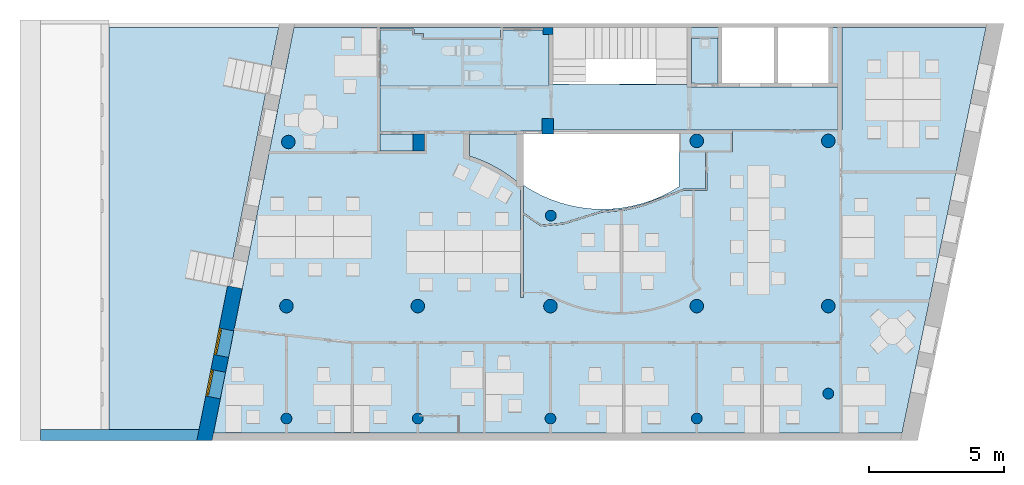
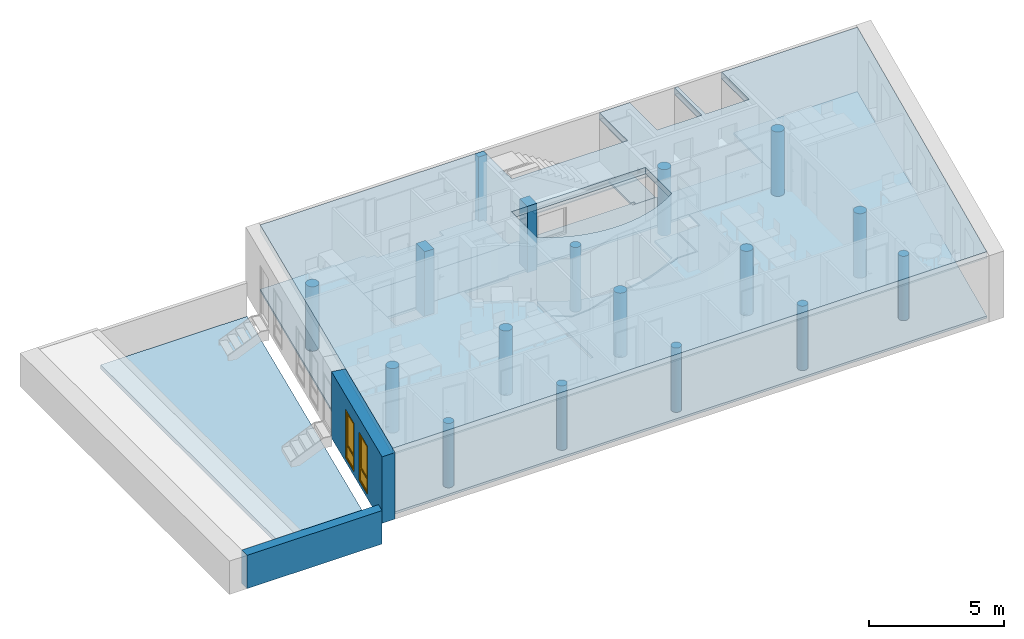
"""IFC4 building model written with IfcOpenShell, lengths in metres."""

from ifc_helpers import new_model, entity, si_unit, converted_unit, derived_unit, frame, frame_2d, origin, origin_with_axes, place, context, subcontext, project, spatial, polyline, rectangle, circle, outline, extrude, closed_shell, open_shell, surface_model, source, transform, mapped, material, layer, layer_set, layer_usage, type_object, element, fill, save


model = new_model("IFC4")

# Units and contexts
model_context = context("Model", 3, precision=1e-05, world=origin())
body_context = subcontext(model_context, "Body", "Model", "MODEL_VIEW")
ifc_project = project(units=[si_unit("LENGTHUNIT", "METRE"), si_unit("AREAUNIT", "SQUARE_METRE"), si_unit("VOLUMEUNIT", "CUBIC_METRE"), si_unit("MASSUNIT", "GRAM", prefix="KILO"), converted_unit("PLANEANGLEUNIT", "DEGREE", entity("IfcPlaneAngleMeasure", 0.0174532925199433), si_unit("PLANEANGLEUNIT", "RADIAN"), dimensions=[0, 0, 0, 0, 0, 0, 0]), derived_unit("THERMALTRANSMITTANCEUNIT", [(si_unit("POWERUNIT", "WATT"), 1), (si_unit("THERMODYNAMICTEMPERATUREUNIT", "KELVIN"), -1), (si_unit("LENGTHUNIT", "METRE"), -2)]), derived_unit("VOLUMETRICFLOWRATEUNIT", [(si_unit("LENGTHUNIT", "METRE"), 3), (converted_unit("TIMEUNIT", "hour", entity("IfcTimeMeasure", 3600.0), si_unit("TIMEUNIT", "SECOND"), dimensions=[0, 0, 1, 0, 0, 0, 0]), -1), (si_unit("LENGTHUNIT", "METRE"), -1)])], contexts=[model_context])

# Building, storeys
building_placement = place(None, origin())
building = spatial("IfcBuilding", under=ifc_project, at=building_placement, Name="HABITATGE PLURIFAMILIAR", CompositionType="ELEMENT")
storey_1_placement = place(building_placement, frame((0.0, 0.0, 6.25)))
storey_1 = spatial("IfcBuildingStorey", under=building, at=storey_1_placement, Name="PLANTA PRIMERA", CompositionType="ELEMENT", Elevation=6.25)
storey_2_placement = place(storey_1_placement, frame((0.0, 0.0, 3.35)))
storey_2 = spatial("IfcBuildingStorey", under=storey_1, at=storey_2_placement, Name="NOU", CompositionType="PARTIAL")

# Columns
for number, where, name in (
    (1, (420.741984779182, 23.649459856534, -3.45), "Pilar P1"),
    (2, (420.741984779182, 17.549459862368, -3.45), "Pilar P1"),
    (3, (415.886984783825, 17.549459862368, -3.45), "Pilar P1"),
    (4, (405.586984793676, 17.549459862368, -3.45), "Pilar P1"),
):
    element("IfcColumn", number, at=place(storey_2_placement, frame(where)), inside=storey_2, Name=name, PredefinedType="COLUMN", context=body_context, shape_type="SweptSolid", body=[
        extrude(circle(Radius=0.25, at=frame_2d((0.25, 0.25), x_axis=(1.0, 0.0))), origin_with_axes(), (0.0, 0.0, 1.0), 3.01),
    ])
for number, where, name in (
    (5, (400.786984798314, 13.449459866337, -3.45), "Pilar P1"),
    (6, (405.636984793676, 13.449459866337, -3.45), "Pilar P1"),
    (7, (410.533725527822, 13.449459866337, -3.45), "Pilar P1"),
    (8, (415.936984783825, 13.449459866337, -3.45), "Pilar P1"),
):
    element("IfcColumn", number, at=place(storey_2_placement, frame(where)), inside=storey_2, Name=name, PredefinedType="COLUMN", context=body_context, shape_type="SweptSolid", body=[
        extrude(circle(Radius=0.200000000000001, at=frame_2d((0.200000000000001, 0.200000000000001), x_axis=(1.0, 0.0))), origin_with_axes(), (0.0, 0.0, 1.0), 3.01),
    ])
for number, where, name in (
    (9, (400.736984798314, 17.5494598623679, -3.45), "Pilar P1"),
    (10, (400.806984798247, 23.6094598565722, -3.45), "Pilar P1"),
):
    element("IfcColumn", number, at=place(storey_2_placement, frame(where)), inside=storey_2, Name=name, PredefinedType="COLUMN", context=body_context, shape_type="SweptSolid", body=[
        extrude(circle(Radius=0.25, at=frame_2d((0.25, 0.25), x_axis=(1.0, 0.0))), origin_with_axes(), (0.0, 0.0, 1.0), 3.01),
    ])
column_1_placement = place(storey_2_placement, frame((420.791984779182, 14.3694598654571, -3.45)))
element("IfcColumn", 11, at=column_1_placement, inside=storey_2, Name="Pilar P1", PredefinedType="COLUMN", context=body_context, shape_type="SweptSolid", body=[
    extrude(circle(Radius=0.200000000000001, at=frame_2d((0.200000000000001, 0.200000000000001), x_axis=(1.0, 0.0))), origin_with_axes(), (0.0, 0.0, 1.0), 3.01),
])
column_2_placement = place(storey_2_placement, frame((415.886984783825, 23.649459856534, -3.45)))
element("IfcColumn", 12, at=column_2_placement, inside=storey_2, Name="Pilar P1", PredefinedType="COLUMN", context=body_context, shape_type="SweptSolid", body=[
    extrude(circle(Radius=0.25, at=frame_2d((0.25, 0.25), x_axis=(1.0, 0.0))), origin_with_axes(), (0.0, 0.0, 1.0), 3.01),
])
column_3_placement = place(storey_2_placement, frame((410.546984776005, 20.9394598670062, -3.45)))
element("IfcColumn", 13, at=column_3_placement, inside=storey_2, Name="Pilar P1", PredefinedType="COLUMN", context=body_context, shape_type="SweptSolid", body=[
    extrude(circle(Radius=0.200000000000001, at=frame_2d((0.200000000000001, 0.200000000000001), x_axis=(1.0, 0.0))), origin_with_axes(), (0.0, 0.0, 1.0), 3.01),
])
column_4_placement = place(storey_2_placement, frame((410.456984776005, 27.8194598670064, -3.45)))
element("IfcColumn", 14, at=column_4_placement, inside=storey_2, Name="Pilar P1", PredefinedType="COLUMN", context=body_context, shape_type="SweptSolid", body=[
    extrude(rectangle(XDim=0.370000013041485, YDim=0.258788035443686, at=frame_2d((0.185000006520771, 0.129394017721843), x_axis=(1.0, 0.0))), origin_with_axes(), (0.0, 0.0, 1.0), 3.01),
])
column_5_placement = place(storey_2_placement, frame((410.426984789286, 24.1594598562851, -3.45)))
element("IfcColumn", 15, at=column_5_placement, inside=storey_2, Name="Pilar P1", PredefinedType="COLUMN", context=body_context, shape_type="SweptSolid", body=[
    extrude(rectangle(XDim=0.413483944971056, YDim=0.569999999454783, at=frame_2d((0.206741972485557, 0.284999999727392), x_axis=(1.0, 0.0))), origin_with_axes(), (0.0, 0.0, 1.0), 3.01),
])
column_6_placement = place(storey_2_placement, frame((410.483725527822, 17.549459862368, -3.45)))
element("IfcColumn", 16, at=column_6_placement, inside=storey_2, Name="Pilar P1", PredefinedType="COLUMN", context=body_context, shape_type="SweptSolid", body=[
    extrude(circle(Radius=0.25, at=frame_2d((0.25, 0.25), x_axis=(1.0, 0.0))), origin_with_axes(), (0.0, 0.0, 1.0), 3.01),
])
column_7_placement = place(storey_2_placement, frame((405.666984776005, 23.5194598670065, -3.45)))
element("IfcColumn", 17, at=column_7_placement, inside=storey_2, Name="Pilar P1", PredefinedType="COLUMN", context=body_context, shape_type="SweptSolid", body=[
    extrude(rectangle(XDim=0.41, YDim=0.639999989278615, at=frame_2d((0.205, 0.319999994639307), x_axis=(1.0, 0.0))), origin_with_axes(), (0.0, 0.0, 1.0), 3.01),
])

# Slabs
slab_1_placement = place(storey_2_placement, frame((398.297213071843, 13.1206121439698, -0.74)))
element("IfcSlab", 18, at=slab_1_placement, inside=storey_2, Name="Forjat P1", PredefinedType="FLOOR", context=body_context, shape_type="SweptSolid", body=[
    extrude(outline(polyline([(2.96349409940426, 14.9576357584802), (0.0, 0.0), (25.4182961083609, 0.0), (28.5181224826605, 14.9576357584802), (22.7097717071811, 14.9576357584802), (22.7097717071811, 12.9188477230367), (20.8397717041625, 12.9188477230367), (20.8397717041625, 14.9576357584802), (20.6897717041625, 14.9576357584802), (20.6897717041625, 12.9188477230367), (18.7797717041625, 12.9188477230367), (18.7797717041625, 14.9576357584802), (17.4797717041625, 14.9576357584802), (17.4797717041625, 12.8715485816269), (12.5297717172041, 12.87065087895), (12.5297717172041, 14.9576357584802), (2.96349409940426, 14.9576357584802)]), holes=[polyline([(17.1897717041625, 11.0388477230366), (17.1897717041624, 9.09321161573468), (16.8634175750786, 8.89923746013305), (16.5238593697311, 8.72943399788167), (16.1728841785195, 8.5846949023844), (15.812339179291, 8.46578193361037), (15.4441219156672, 8.37332092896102), (15.0701703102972, 8.30779850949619), (14.6924524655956, 8.26955951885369), (14.3129563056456, 8.25880520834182), (13.9336791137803, 8.27559217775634), (13.5566170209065, 8.31983207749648), (13.1837544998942, 8.39129207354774), (12.8170539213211, 8.48959607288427), (12.4584452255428, 8.61422670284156), (12.1098157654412, 8.76452803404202), (11.7730003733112, 8.93970903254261), (11.4497717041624, 9.1388477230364), (11.4497717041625, 11.0388477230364), (17.1897717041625, 11.0388477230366)])]), origin_with_axes(), (0.0, 0.0, 1.0), 0.3),
])
slab_2_placement = place(storey_2_placement, frame((404.436617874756, 24.2444598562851, -1.04)))
element("IfcSlab", 19, at=slab_2_placement, inside=storey_2, Name="Fals sostre P1", PredefinedType="FLOOR", context=body_context, shape_type="SweptSolid", body=[
    extrude(outline(polyline([(0.0, 3.73500001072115), (0.0, 0.0), (1.74036690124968, 0.015), (3.07036690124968, 0.0120495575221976), (3.31671244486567, 0.015), (5.99036691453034, 0.015), (5.99036691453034, 0.484999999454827), (6.4038508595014, 0.484999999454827), (6.4038508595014, 0.0650000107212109), (16.9003669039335, 0.0650000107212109), (16.9003669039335, 1.64500001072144), (11.3403669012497, 1.64500001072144), (11.3400558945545, 1.74586582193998), (6.24036691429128, 1.74586582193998), (6.24036691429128, 3.57500001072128), (6.0203669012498, 3.57500001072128), (6.0203669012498, 3.7575195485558), (4.55085579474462, 3.7575195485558), (4.55085579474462, 3.40499999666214), (1.5605032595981, 3.40499999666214), (1.5605032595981, 3.56702692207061), (1.20068385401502, 3.56702692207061), (1.20068385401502, 3.73500001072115), (0.0, 3.73500001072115)])), origin_with_axes(), (0.0, 0.0, 1.0), 0.05),
    extrude(rectangle(XDim=0.979999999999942, YDim=1.69999999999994, at=frame_2d((0.49, 0.849999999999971), x_axis=(1.0, 0.0))), frame((11.5103669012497, 1.75500001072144, 0.0), z_axis=(0.0, 0.0, 1.0), x_axis=(1.0, 0.0, 0.0)), (0.0, 0.0, 1.0), 0.05),
])
slab_3_placement = place(storey_2_placement, frame((415.946984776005, 25.8894598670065, -3.45)))
element("IfcSlab", 20, at=slab_3_placement, inside=storey_2, PredefinedType="FLOOR", context=body_context, shape_type="SweptSolid", body=[
    extrude(outline(polyline([(0.13, 0.0), (0.979999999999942, 0.0), (0.98, 1.80999999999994), (0.0, 1.80999999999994), (0.0, 0.15), (0.13, 0.15), (0.13, 0.0)])), origin_with_axes(), (0.0, 0.0, 1.0), 0.1),
])
slab_4_placement = place(storey_2_placement, frame((394.439778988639, 13.2406121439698, -4.58)))
element("IfcSlab", 21, at=slab_4_placement, inside=storey_2, PredefinedType="FLOOR", context=body_context, shape_type="SweptSolid", body=[
    extrude(outline(polyline([(0.0, 14.8376357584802), (0.0, 0.0), (3.32051828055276, 0.0), (6.26023727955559, 14.8376357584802), (0.0, 14.8376357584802)])), origin_with_axes(), (0.0, 0.0, 1.0), 0.2),
])
slab_5_placement = place(storey_2_placement, frame((409.746984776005, 20.8007728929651, -3.45)))
element("IfcSlab", 22, at=slab_5_placement, inside=storey_2, Name="Paviment P1", PredefinedType="FLOOR", context=body_context, shape_type="SweptSolid", body=[
    extrude(outline(polyline([(5.74, 2.68868697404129), (5.74, 1.41305086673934), (5.41364587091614, 1.21907671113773), (5.07408766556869, 1.04927324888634), (4.72311247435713, 0.904534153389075), (4.36256747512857, 0.785621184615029), (3.99435021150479, 0.693160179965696), (3.62039860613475, 0.627637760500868), (3.24268076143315, 0.58939876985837), (2.86318460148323, 0.578644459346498), (2.48390740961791, 0.595431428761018), (2.10684531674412, 0.639671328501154), (1.73398279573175, 0.711131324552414), (1.3672822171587, 0.809435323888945), (1.00867352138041, 0.934065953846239), (0.660044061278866, 1.08436728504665), (0.323228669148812, 1.25954828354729), (0.0, 1.45868697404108), (0.0, 0.435594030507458), (0.652597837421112, 0.0), (1.44673865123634, 0.0680409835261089), (2.86004820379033, 0.508111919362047), (2.86568998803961, 0.508541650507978), (3.65197201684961, 0.568810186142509), (4.41148500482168, 0.746538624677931), (5.14324609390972, 1.03532083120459), (5.88211983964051, 1.31538096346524), (5.89066652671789, 1.31868697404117), (6.72, 1.31868697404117), (6.72, 2.68868697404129), (5.74, 2.68868697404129)]), holes=[polyline([(0.9, 0.165481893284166), (0.897611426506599, 0.167154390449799), (0.884992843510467, 0.174439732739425), (0.873831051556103, 0.183805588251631), (0.871442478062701, 0.18547808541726), (0.869380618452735, 0.187539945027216), (0.858218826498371, 0.196905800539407), (0.84885297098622, 0.208067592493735), (0.846791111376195, 0.210129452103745), (0.845118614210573, 0.21251802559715), (0.835752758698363, 0.223679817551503), (0.828467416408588, 0.236298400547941), (0.826794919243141, 0.238686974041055), (0.825562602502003, 0.241329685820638), (0.818277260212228, 0.253948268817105), (0.81329379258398, 0.267640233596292), (0.812061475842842, 0.270282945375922), (0.81130678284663, 0.273099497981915), (0.806323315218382, 0.286791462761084), (0.803793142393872, 0.301140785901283), (0.803038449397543, 0.303957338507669), (0.802784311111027, 0.306862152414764), (0.800254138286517, 0.321211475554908), (0.800254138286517, 0.356162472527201), (0.802784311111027, 0.370511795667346), (0.803038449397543, 0.37341660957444), (0.803793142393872, 0.376233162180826), (0.806323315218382, 0.390582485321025), (0.81130678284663, 0.404274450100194), (0.812061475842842, 0.407091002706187), (0.81329379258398, 0.409733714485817), (0.818277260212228, 0.423425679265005), (0.825562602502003, 0.436044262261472), (0.826794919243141, 0.438686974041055), (0.828467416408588, 0.441075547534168), (0.835752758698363, 0.453694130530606), (0.845118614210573, 0.46485592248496), (0.846791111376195, 0.467244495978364), (0.84885297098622, 0.469306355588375), (0.858218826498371, 0.480468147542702), (0.869380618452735, 0.489834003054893), (0.871442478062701, 0.491895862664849), (0.873831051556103, 0.493568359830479), (0.884992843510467, 0.502934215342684), (0.897611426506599, 0.51021955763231), (0.9, 0.511892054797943), (0.902642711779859, 0.513124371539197), (0.91526129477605, 0.520409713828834), (0.928953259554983, 0.525393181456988), (0.931595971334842, 0.526625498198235), (0.934412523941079, 0.527380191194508), (0.948104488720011, 0.532363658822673), (0.962453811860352, 0.534893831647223), (0.965270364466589, 0.535648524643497), (0.968175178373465, 0.535902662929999), (0.982524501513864, 0.538432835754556), (1.01747549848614, 0.538432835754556), (1.03182482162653, 0.535902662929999), (1.03472963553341, 0.535648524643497), (1.03754618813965, 0.534893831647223), (1.05189551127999, 0.532363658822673), (1.06558747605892, 0.527380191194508), (1.06840402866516, 0.526625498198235), (1.07104674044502, 0.525393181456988), (1.08473870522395, 0.520409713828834), (1.09735728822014, 0.513124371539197), (1.1, 0.511892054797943), (1.1023885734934, 0.51021955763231), (1.11500715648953, 0.502934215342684), (1.1261689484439, 0.493568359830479), (1.1285575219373, 0.491895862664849), (1.13061938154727, 0.489834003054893), (1.14178117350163, 0.480468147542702), (1.15114702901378, 0.469306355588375), (1.15320888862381, 0.467244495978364), (1.15488138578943, 0.46485592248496), (1.16424724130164, 0.453694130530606), (1.17153258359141, 0.441075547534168), (1.17320508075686, 0.438686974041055), (1.174437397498, 0.436044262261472), (1.18172273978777, 0.423425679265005), (1.18670620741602, 0.409733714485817), (1.18793852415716, 0.407091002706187), (1.18869321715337, 0.404274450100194), (1.19367668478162, 0.390582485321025), (1.19620685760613, 0.376233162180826), (1.19696155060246, 0.37341660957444), (1.19721568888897, 0.370511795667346), (1.19974586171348, 0.356162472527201), (1.19974586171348, 0.321211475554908), (1.19721568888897, 0.306862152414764), (1.19696155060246, 0.303957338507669), (1.19620685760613, 0.301140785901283), (1.19367668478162, 0.286791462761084), (1.18869321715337, 0.273099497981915), (1.18793852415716, 0.270282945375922), (1.18670620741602, 0.267640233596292), (1.18172273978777, 0.253948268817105), (1.174437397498, 0.241329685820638), (1.17320508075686, 0.238686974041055), (1.17153258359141, 0.236298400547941), (1.16424724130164, 0.223679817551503), (1.15488138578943, 0.21251802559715), (1.15320888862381, 0.210129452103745), (1.15114702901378, 0.208067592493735), (1.14178117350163, 0.196905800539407), (1.13061938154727, 0.187539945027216), (1.1285575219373, 0.18547808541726), (1.1261689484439, 0.183805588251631), (1.11500715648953, 0.174439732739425), (1.1023885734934, 0.167154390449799), (1.1, 0.165481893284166), (1.09735728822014, 0.164249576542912), (1.08473870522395, 0.156964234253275), (1.07104674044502, 0.151980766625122), (1.06840402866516, 0.150748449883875), (1.06558747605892, 0.149993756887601), (1.05189551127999, 0.145010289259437), (1.03754618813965, 0.142480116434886), (1.03472963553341, 0.141725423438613), (1.03182482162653, 0.141471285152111), (1.01747549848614, 0.138941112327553), (0.982524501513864, 0.138941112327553), (0.968175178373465, 0.141471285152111), (0.965270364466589, 0.141725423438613), (0.962453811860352, 0.142480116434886), (0.948104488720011, 0.145010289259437), (0.934412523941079, 0.149993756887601), (0.931595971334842, 0.150748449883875), (0.928953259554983, 0.151980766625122), (0.91526129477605, 0.156964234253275), (0.902642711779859, 0.164249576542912), (0.9, 0.165481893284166)])]), origin_with_axes(), (0.0, 0.0, 1.0), 0.1),
])
slab_6_placement = place(storey_2_placement, frame((398.297213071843, 13.1206121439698, -3.45)))
element("IfcSlab", 23, at=slab_6_placement, inside=storey_2, PredefinedType="FLOOR", context=body_context, shape_type="SweptSolid", body=[
    extrude(outline(polyline([(23.2097717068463, 14.9576357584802), (23.2097717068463, 12.7688477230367), (23.2097717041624, 11.1888477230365), (19.1497717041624, 11.1888477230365), (19.1497717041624, 10.3688477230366), (18.2197717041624, 10.3688477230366), (18.2197717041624, 8.9488477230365), (17.3497717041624, 8.9488477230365), (15.8762096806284, 8.37884772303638), (15.1069892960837, 8.19884772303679), (14.3192710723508, 8.13884772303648), (12.9061893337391, 7.69884772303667), (12.0891826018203, 7.62884772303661), (11.4497717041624, 8.0556397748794), (11.4497717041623, 4.9888477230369), (11.3297717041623, 4.9888477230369), (11.3297717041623, 8.98901362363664), (11.3294163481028, 9.16051067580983), (11.114388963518, 9.34097214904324), (10.9002512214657, 9.50151993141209), (10.6780045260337, 9.65064058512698), (10.4482580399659, 9.7879253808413), (10.2116414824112, 9.91299803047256), (9.96880340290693, 10.0255157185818), (9.72040940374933, 10.125170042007), (9.43977170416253, 10.2194635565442), (9.43977170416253, 11.0388477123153), (11.3297717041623, 11.0388477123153), (11.3299517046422, 11.094896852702), (6.13940480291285, 11.0538477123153), (6.13940480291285, 14.9576357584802), (2.96539894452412, 14.9576357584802), (0.0, 0.0), (25.4182961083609, 0.0), (28.5181224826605, 14.9576357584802), (23.2097717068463, 14.9576357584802)]), holes=[polyline([(6.13977170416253, 10.3988477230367), (6.13977170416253, 11.0388477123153), (7.36977170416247, 11.0388477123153), (7.36977170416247, 10.3988477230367), (6.13977170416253, 10.3988477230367)])]), origin_with_axes(), (0.0, 0.0, 1.0), 0.1),
])
slab_7_placement = place(storey_2_placement, frame((404.436617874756, 24.1744598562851, -3.45)))
element("IfcSlab", 24, at=slab_7_placement, inside=storey_2, PredefinedType="FLOOR", context=body_context, shape_type="SweptSolid", body=[
    extrude(outline(polyline([(13.0103669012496, 0.135000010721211), (17.0703669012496, 0.135000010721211), (17.0703669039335, 1.71500001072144), (11.5103669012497, 1.71500001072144), (11.5103798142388, 1.81450485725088), (6.24036691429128, 1.81769969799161), (6.24036691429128, 1.75499999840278), (0.0, 1.75499999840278), (0.0, 0.0), (5.19054690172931, 0.0410491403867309), (5.1906883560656, 0.0850956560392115), (5.99036691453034, 0.0850000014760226), (5.99036690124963, 0.554999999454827), (6.4038508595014, 0.554999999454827), (6.4038508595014, 0.135000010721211), (13.0103669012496, 0.135000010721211)])), origin_with_axes(), (0.0, 0.0, 1.0), 0.1),
])
slab_8_placement = place(storey_2_placement, frame((404.436617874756, 25.9294598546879, -3.45)))
element("IfcSlab", 25, at=slab_8_placement, inside=storey_2, PredefinedType="FLOOR", context=body_context, shape_type="SweptSolid", body=[
    extrude(outline(polyline([(4.45085579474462, 2.07000001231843), (4.45085579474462, 1.76999999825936), (1.6105032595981, 1.76999999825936), (1.6105032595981, 1.93202692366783), (1.25068385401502, 1.93202692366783), (1.25068385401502, 2.10000001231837), (0.0, 2.10000001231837), (0.0, 0.0), (6.24036691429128, 0.0), (6.24036691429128, 1.89000001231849), (6.0203669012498, 1.89000001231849), (6.02036690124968, 2.07000001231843), (4.45085579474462, 2.07000001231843)])), origin_with_axes(), (0.0, 0.0, 1.0), 0.1),
])

# Wall
ifc_material_1 = material()
ifc_layer_1 = layer(ifc_material_1, 0.4)
ifc_layer_set_1 = layer_set([ifc_layer_1])
ifc_layer_usage_1 = layer_usage(ifc_layer_set_1, "AXIS2", "POSITIVE", 0.0)
wall_1_placement = place(storey_2_placement, frame((391.899713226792, 12.8406121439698, -4.38)))
element("IfcWall", 26, at=wall_1_placement, inside=storey_2, material=ifc_layer_usage_1, Name="Envans P1", context=body_context, shape_type="SweptSolid", body=[
    extrude(outline(polyline([(0.0, 0.0), (5.78133370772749, 0.0), (5.86058404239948, 0.4), (0.0, 0.4), (0.0, 0.0)])), origin_with_axes(), (0.0, 0.0, 1.0), 1.51),
])

# Wall, openings, doors
ifc_material_2 = material()
ifc_layer_2 = layer(ifc_material_2, 0.550000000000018)
ifc_layer_set_2 = layer_set([ifc_layer_2])
ifc_layer_usage_2 = layer_usage(ifc_layer_set_2, "AXIS2", "POSITIVE", 0.0)
wall_2_placement = place(storey_2_placement, frame((398.81213893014, 18.5495697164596, -3.45), z_axis=(0.0, 0.0, 1.0), x_axis=(-0.194348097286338, -0.980932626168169, 0.0)))
wall_2 = element("IfcWall", 27, at=wall_2_placement, inside=storey_2, material=ifc_layer_usage_2, Name="Façana nord-oest P1", context=body_context, shape_type="SweptSolid", body=[
    extrude(outline(polyline([(-5.81992832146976, 0.0), (0.0, 0.0), (-0.108969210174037, 0.550000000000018), (-5.81992832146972, 0.549999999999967), (-5.81992832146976, 0.0)])), frame((5.81992832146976, 0.0, 0.0), z_axis=(0.0, 0.0, 1.0), x_axis=(1.0, 0.0, 0.0)), (0.0, 0.0, 1.0), 3.01),
])
opening_1_placement = place(wall_2_placement, frame((3.14630473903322, 0.0, 0.19), z_axis=(2.06703341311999e-14, 1.0, 0.0), x_axis=(0.0, 0.0, 1.0)))
opening_1 = element("IfcOpeningElement", 28, at=opening_1_placement, cuts=wall_2, Name="Vano de Finestra P1", ObjectType="Opening", context=body_context, shape_type="SweptSolid", body=[
    extrude(outline(polyline([(2.19, 1.0), (2.19, 0.0), (0.0, 0.0), (0.0, 1.0), (2.19, 1.0)])), origin_with_axes(), (0.0, 0.0, 1.0), 0.550000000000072),
])
opening_2_placement = place(wall_2_placement, frame((1.58630474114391, 0.0, 0.19), z_axis=(-2.43909942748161e-14, 1.0, 0.0), x_axis=(0.0, 0.0, 1.0)))
opening_2 = element("IfcOpeningElement", 29, at=opening_2_placement, cuts=wall_2, Name="Vano de Finestra P1", ObjectType="Opening", context=body_context, shape_type="SweptSolid", body=[
    extrude(outline(polyline([(2.19, 0.999999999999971), (2.19, 0.0), (0.0, 0.0), (0.0, 0.999999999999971), (2.19, 0.999999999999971)])), origin_with_axes(), (0.0, 0.0, 1.0), 0.550000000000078),
])
door_type_1 = type_object("IfcDoorType", Name="Finestra P1", OperationType="NOTDEFINED", ParameterTakesPrecedence=False, PredefinedType="DOOR")
shared_shape = source(origin_with_axes(), body_context, "Body", "SurfaceModel", [
    surface_model("IfcShellBasedSurfaceModel", [(0.0, 0.0700000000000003, 2.19), (0.0, 0.07, 0.0), (0.07, 0.07, 0.0), (0.07, 0.0700000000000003, 2.19), (0.0, 0.0, 0.0), (0.0, 0.0, 2.19), (0.07, 0.0, 2.19), (0.07, 0.0, 0.0)], [closed_shell([[[0, 1, 2, 3]], [[4, 5, 6, 7]], [[1, 0, 5, 4]], [[2, 1, 4, 7]], [[3, 2, 7, 6]], [[0, 3, 6, 5]]], orient=[[False], [False], [False], [False], [False], [False]])]),
    surface_model("IfcShellBasedSurfaceModel", [(0.929999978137, 0.0700000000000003, 2.19), (0.929999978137, 0.07, 0.0), (0.999999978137, 0.07, 0.0), (0.999999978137, 0.0700000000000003, 2.19), (0.929999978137, 0.0, 0.0), (0.929999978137, 0.0, 2.19), (0.999999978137, 0.0, 2.19), (0.999999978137, 0.0, 0.0)], [closed_shell([[[0, 1, 2, 3]], [[4, 5, 6, 7]], [[1, 0, 5, 4]], [[2, 1, 4, 7]], [[3, 2, 7, 6]], [[0, 3, 6, 5]]], orient=[[False], [False], [False], [False], [False], [False]])]),
    surface_model("IfcShellBasedSurfaceModel", [(0.07, 0.07, 0.07), (0.07, 0.07, 0.0), (0.929999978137, 0.07, 0.0), (0.929999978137, 0.07, 0.07), (0.07, 0.0, 0.0), (0.07, 0.0, 0.07), (0.929999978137, 0.0, 0.07), (0.929999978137, 0.0, 0.0)], [closed_shell([[[0, 1, 2, 3]], [[4, 5, 6, 7]], [[1, 0, 5, 4]], [[2, 1, 4, 7]], [[3, 2, 7, 6]], [[0, 3, 6, 5]]], orient=[[False], [False], [False], [False], [False], [False]])]),
    surface_model("IfcShellBasedSurfaceModel", [(0.07, 0.0700000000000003, 2.19), (0.07, 0.0700000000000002, 2.12), (0.929999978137, 0.0700000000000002, 2.12), (0.929999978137, 0.0700000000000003, 2.19), (0.07, 0.0, 2.12), (0.07, 0.0, 2.19), (0.929999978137, 0.0, 2.19), (0.929999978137, 0.0, 2.12)], [closed_shell([[[0, 1, 2, 3]], [[4, 5, 6, 7]], [[1, 0, 5, 4]], [[2, 1, 4, 7]], [[3, 2, 7, 6]], [[0, 3, 6, 5]]], orient=[[False], [False], [False], [False], [False], [False]])]),
    surface_model("IfcShellBasedSurfaceModel", [(0.07, 0.035, 0.07), (0.929999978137, 0.035, 0.07), (0.929999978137, 0.0350000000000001, 0.57), (0.07, 0.0350000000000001, 0.57)], [open_shell([[[0, 1, 2, 3]]], orient=[[False]])]),
    surface_model("IfcShellBasedSurfaceModel", [(0.05, 0.1, 2.14), (0.05, 0.1, 0.551), (0.1, 0.1, 0.551), (0.1, 0.1, 2.14), (0.05, 0.0500000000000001, 0.551), (0.05, 0.0500000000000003, 2.14), (0.1, 0.0500000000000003, 2.14), (0.1, 0.0500000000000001, 0.551)], [closed_shell([[[0, 1, 2, 3]], [[4, 5, 6, 7]], [[1, 0, 5, 4]], [[2, 1, 4, 7]], [[3, 2, 7, 6]], [[0, 3, 6, 5]]], orient=[[False], [False], [False], [False], [False], [False]])]),
    surface_model("IfcShellBasedSurfaceModel", [(0.899999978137, 0.1, 2.14), (0.899999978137, 0.1, 0.551), (0.949999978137, 0.1, 0.551), (0.949999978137, 0.1, 2.14), (0.899999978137, 0.0500000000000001, 0.551), (0.899999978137, 0.0500000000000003, 2.14), (0.949999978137, 0.0500000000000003, 2.14), (0.949999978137, 0.0500000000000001, 0.551)], [closed_shell([[[0, 1, 2, 3]], [[4, 5, 6, 7]], [[1, 0, 5, 4]], [[2, 1, 4, 7]], [[3, 2, 7, 6]], [[0, 3, 6, 5]]], orient=[[False], [False], [False], [False], [False], [False]])]),
    surface_model("IfcShellBasedSurfaceModel", [(0.1, 0.1, 0.601), (0.1, 0.1, 0.551), (0.899999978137, 0.1, 0.551), (0.899999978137, 0.1, 0.601), (0.1, 0.0500000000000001, 0.551), (0.1, 0.0500000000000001, 0.601), (0.899999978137, 0.0500000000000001, 0.601), (0.899999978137, 0.0500000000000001, 0.551)], [closed_shell([[[0, 1, 2, 3]], [[4, 5, 6, 7]], [[1, 0, 5, 4]], [[2, 1, 4, 7]], [[3, 2, 7, 6]], [[0, 3, 6, 5]]], orient=[[False], [False], [False], [False], [False], [False]])]),
    surface_model("IfcShellBasedSurfaceModel", [(0.1, 0.1, 2.14), (0.1, 0.1, 2.09), (0.899999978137, 0.1, 2.09), (0.899999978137, 0.1, 2.14), (0.1, 0.0500000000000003, 2.09), (0.1, 0.0500000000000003, 2.14), (0.899999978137, 0.0500000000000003, 2.14), (0.899999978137, 0.0500000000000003, 2.09)], [closed_shell([[[0, 1, 2, 3]], [[4, 5, 6, 7]], [[1, 0, 5, 4]], [[2, 1, 4, 7]], [[3, 2, 7, 6]], [[0, 3, 6, 5]]], orient=[[False], [False], [False], [False], [False], [False]])]),
    surface_model("IfcShellBasedSurfaceModel", [(0.1, 0.0750000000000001, 0.601), (0.899999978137, 0.0750000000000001, 0.601), (0.899999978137, 0.0750000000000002, 2.09), (0.1, 0.0750000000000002, 2.09)], [open_shell([[[0, 1, 2, 3]]], orient=[[False]])]),
])
door_1_placement = place(opening_1_placement, frame((0.0, 0.0, 0.0), z_axis=(1.0, 0.0, 0.0), x_axis=(0.0, 1.0000000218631, -4.62130334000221e-14)))
door_1 = element("IfcDoor", 30, at=door_1_placement, inside=storey_2, type_object=door_type_1, Name="Finestra P1", OverallHeight=2.19, OverallWidth=1.0, context=body_context, shape_type="MappedRepresentation", body=[
    mapped(shared_shape, transform((0.0, 0.0, 0.0), x_axis=(1.0, 0.0, 0.0), y_axis=(0.0, 1.0, 0.0), z_axis=(0.0, 0.0, 1.0), scale=1.0000000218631)),
])
fill(opening_1, door_1)
door_type_2 = type_object("IfcDoorType", Name="Finestra P1", OperationType="NOTDEFINED", ParameterTakesPrecedence=False, PredefinedType="DOOR")
door_2_placement = place(opening_2_placement, frame((0.0, 0.0, 0.0), z_axis=(1.0, 0.0, 0.0), x_axis=(0.0, 1.000000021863, -4.7795101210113e-14)))
door_2 = element("IfcDoor", 31, at=door_2_placement, inside=storey_2, type_object=door_type_2, Name="Finestra P1", OverallHeight=2.19, OverallWidth=1.0, context=body_context, shape_type="MappedRepresentation", body=[
    mapped(shared_shape, transform((0.0, 0.0, 0.0), x_axis=(1.0, 0.0, 0.0), y_axis=(0.0, 1.0, 0.0), z_axis=(0.0, 0.0, 1.0), scale=1.000000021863)),
])
fill(opening_2, door_2)

save(model, "model.ifc")
